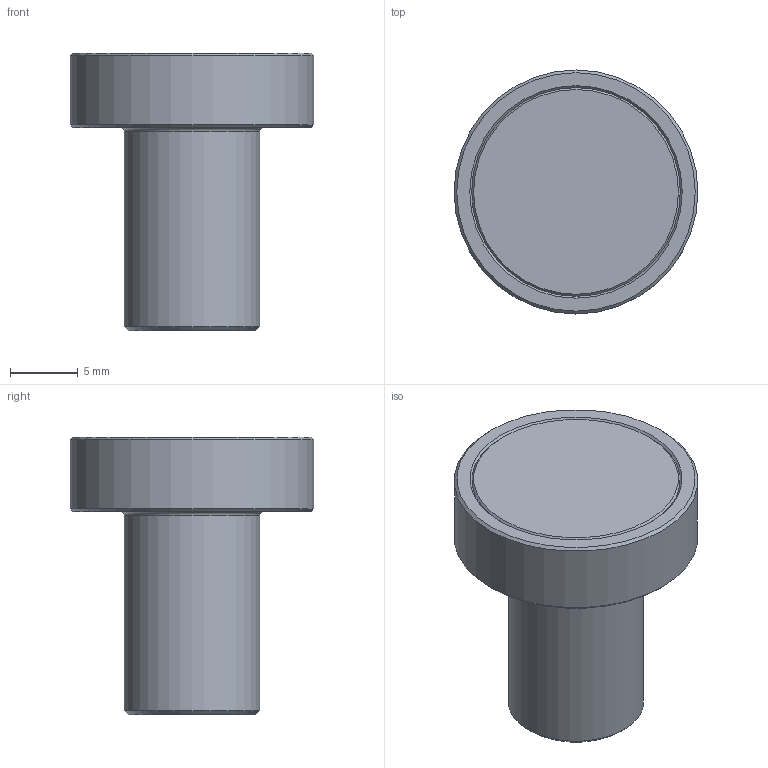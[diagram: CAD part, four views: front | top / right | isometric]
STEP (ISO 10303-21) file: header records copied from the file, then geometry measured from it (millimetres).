
FILE_DESCRIPTION(('Open CASCADE Model'),'2;1');
FILE_NAME('FL-DOT-knob-18','2026-10-19T21:24:16',('Author'),( 'Open CASCADE'),'Open CASCADE STEP processor 8.0','build123d', 'Unknown');
FILE_SCHEMA(('AUTOMOTIVE_DESIGN { 1 0 10303 214 1 1 1 1 }'));
Length unit declared in the file: millimetre
Products named in the file (2): FL-DOT-knob-18; brass_FL-DOT18__k
Assembly tree (1 placements, depth 2):
  FL-DOT-knob-18
    brass_FL-DOT18__k
Bounding box: 18 x 18 x 20.5 mm (x, y, z)
Volume: 2463.7 mm3; surface area: 1397.3 mm2
Topology: 1 solids, 1 shells, 16 faces, 25 edges, 15 vertices
Faces by surface type: plane 6, cone 5, cylinder 4, torus 1
Full cylindrical faces by diameter (mm): 3.3 x1, 5.1 x1, 10 x1, 18 x1
Entity records: 713 total; most frequent: CARTESIAN_POINT 122, DIRECTION 118, ORIENTED_EDGE 50, PCURVE 50, DEFINITIONAL_REPRESENTATION 50, LINE 41, VECTOR 41, AXIS2_PLACEMENT_3D 34
